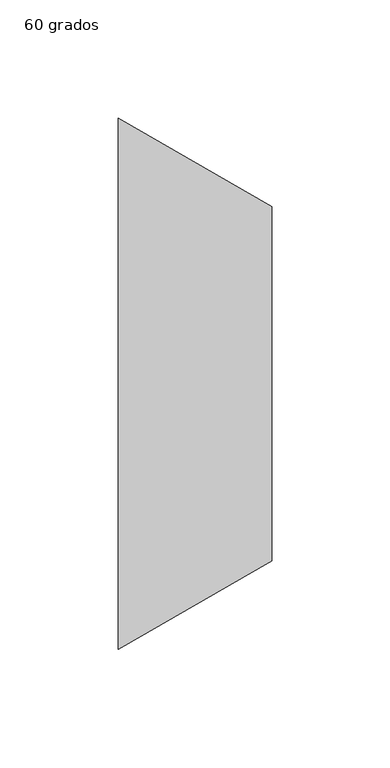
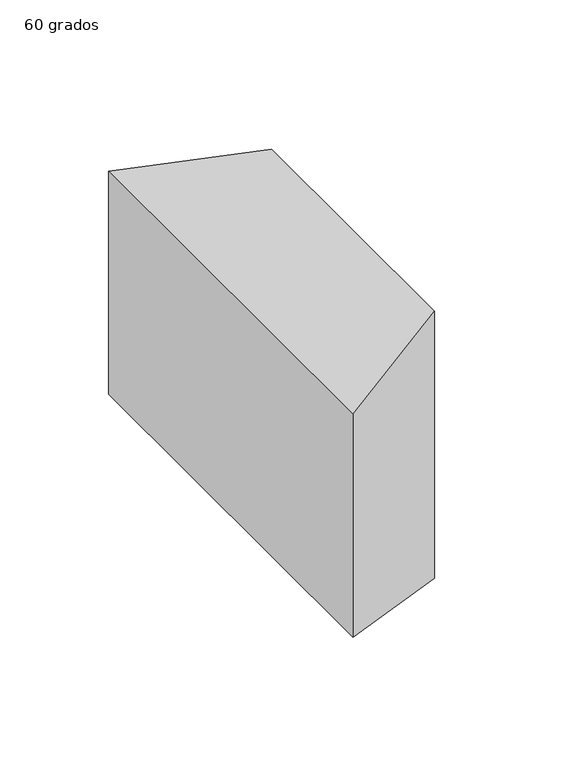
"""IFC4 building model written with IfcOpenShell, lengths in millimetres: duct fitting geometry, M_Transición rectangular - Ángulo : 60 grados."""

import ifcopenshell
import ifcopenshell.guid

model = None  # the IFC model being written
_history = None  # IfcOwnerHistory: only IFC2X3 demands one
_inside = {}  # id of a spatial element -> (the spatial element, [elements in it])
_under = {}  # id of a project, library or spatial element -> (it, [spatial elements below it])
_declared = {}  # id of a project -> (the project, [libraries it declares])
_typed = {}  # id of a type object -> (the type object, [elements of that type])
_made_of = {}  # id of a material, layer set ... -> (it, [elements and type objects made of it])


def new_model(schema):
    """Start an empty IFC model of exactly this schema.

    Asked for "IFC4X3", IfcOpenShell would pick the latest addendum, in which some entities
    have other attributes; the version numbers below select the first issue.
    IFC2X3 requires an IfcOwnerHistory on every rooted entity: one is made here for all.
    """
    global model, _history
    if schema == "IFC4X3":
        model = ifcopenshell.file(schema_version=(4, 3, 0, 0))
    else:
        model = ifcopenshell.file(schema=schema)
    _inside.clear()
    _under.clear()
    _declared.clear()
    _typed.clear()
    _made_of.clear()
    _history = None
    if model.schema == "IFC2X3":
        org = make("IfcOrganization", Name="unknown")
        user = make(
            "IfcPersonAndOrganization",
            ThePerson=make("IfcPerson", FamilyName="unknown"),
            TheOrganization=org,
        )
        app = make(
            "IfcApplication",
            ApplicationDeveloper=org,
            Version="unknown",
            ApplicationFullName="unknown",
            ApplicationIdentifier="unknown",
        )
        _history = make(
            "IfcOwnerHistory",
            OwningUser=user,
            OwningApplication=app,
            ChangeAction="ADDED",
            CreationDate=0,
        )
    return model


def make(cls, **values):
    """One entity of the class cls with the attributes given. An attribute that is None is left unset."""
    return model.create_entity(
        cls, **{name: value for name, value in values.items() if value is not None}
    )


def rooted(cls, **values):
    """An entity with a GlobalId (a new one), such as an element, a storey or a relation."""
    return make(cls, GlobalId=ifcopenshell.guid.new(), OwnerHistory=_history, **values)


def si_unit(unit_type, name, prefix=None):
    """IfcSIUnit, for example si_unit("LENGTHUNIT", "METRE", prefix="MILLI")."""
    return make("IfcSIUnit", UnitType=unit_type, Prefix=prefix, Name=name)


def assignment(units):
    """IfcUnitAssignment: the units of a project."""
    return None if units is None else make("IfcUnitAssignment", Units=units)


def point(xyz):
    """IfcCartesianPoint."""
    return None if xyz is None else make("IfcCartesianPoint", Coordinates=xyz)


def direction(xyz):
    """IfcDirection."""
    return None if xyz is None else make("IfcDirection", DirectionRatios=xyz)


def frame(location, z_axis=None, x_axis=None):
    """IfcAxis2Placement3D, a coordinate frame: its origin and axes. An axis left out is left unset."""
    return make(
        "IfcAxis2Placement3D",
        Location=point(location),
        Axis=direction(z_axis),
        RefDirection=direction(x_axis),
    )


def origin():
    """The frame at (0, 0, 0) with its axes left unset."""
    return frame((0.0, 0.0, 0.0))


def place(relative_to, where):
    """IfcLocalPlacement: puts the frame where relative to a parent placement (None: the world)."""
    return make(
        "IfcLocalPlacement", PlacementRelTo=relative_to, RelativePlacement=where
    )


def context(
    kind, dimensions, precision=None, world=None, true_north=None, identifier=None
):
    """IfcGeometricRepresentationContext, for example the 3D "Model" context."""
    return make(
        "IfcGeometricRepresentationContext",
        ContextIdentifier=identifier,
        ContextType=kind,
        CoordinateSpaceDimension=dimensions,
        Precision=precision,
        WorldCoordinateSystem=world,
        TrueNorth=true_north,
    )


def project(units=None, contexts=None):
    """IfcProject with its units and contexts."""
    return rooted(
        "IfcProject",
        Name="project",
        RepresentationContexts=contexts,
        UnitsInContext=assignment(units),
    )


def spatial(cls, under=None, at=None, **own):
    """A site, building, storey or space (cls), placed at a placement, below another one or the project."""
    s = rooted(cls, ObjectPlacement=at, **own)
    if under is not None:
        _under.setdefault(under.id(), (under, []))[1].append(s)
    return s


def faces_of(points, faces, orient=None, outer=None):
    """IfcFace entities. A face is a list of loops; a loop is a list of indices into points, from 0.

    orient and outer hold one flag for each loop. By default every Orientation is true, the
    first loop of a face is its IfcFaceOuterBound and the others are IfcFaceBound.
    """
    made = []
    for i, loops in enumerate(faces):
        bounds = []
        for j, loop in enumerate(loops):
            is_outer = j == 0 if outer is None else outer[i][j]
            bounds.append(
                make(
                    "IfcFaceOuterBound" if is_outer else "IfcFaceBound",
                    Bound=make("IfcPolyLoop", Polygon=[points[k] for k in loop]),
                    Orientation=True if orient is None else orient[i][j],
                )
            )
        made.append(make("IfcFace", Bounds=bounds))
    return made


def faceted_brep(points, faces, orient=None, outer=None, voids=None):
    """IfcFacetedBrep: a solid bounded by flat faces; with voids (closed shells), ...WithVoids."""
    shared = [point(p) for p in points]
    hull = make("IfcClosedShell", CfsFaces=faces_of(shared, faces, orient, outer))
    if voids is None:
        return make("IfcFacetedBrep", Outer=hull)
    return make(
        "IfcFacetedBrepWithVoids",
        Outer=hull,
        Voids=[
            make(cls, CfsFaces=faces_of(shared, fs, o, b)) for cls, fs, o, b in voids
        ],
    )


def shape(context_of_items, identifier, shape_type, items):
    """IfcShapeRepresentation: the items that make up one representation, for example the "Body"."""
    return make(
        "IfcShapeRepresentation",
        ContextOfItems=context_of_items,
        RepresentationIdentifier=identifier,
        RepresentationType=shape_type,
        Items=items,
    )


def source(mapping_origin, context_of_items, identifier, shape_type, items):
    """IfcRepresentationMap: a shape defined once, which mapped items show again and again."""
    return make(
        "IfcRepresentationMap",
        MappingOrigin=mapping_origin,
        MappedRepresentation=shape(context_of_items, identifier, shape_type, items),
    )


def transform(
    local_origin,
    x_axis=None,
    y_axis=None,
    z_axis=None,
    scale=None,
    scale2=None,
    scale3=None,
    uniform=True,
):
    """IfcCartesianTransformationOperator3D, or its non-uniform kind. x_axis, y_axis, z_axis: its Axis1, 2, 3."""
    if uniform:
        return make(
            "IfcCartesianTransformationOperator3D",
            Axis1=direction(x_axis),
            Axis2=direction(y_axis),
            LocalOrigin=point(local_origin),
            Scale=scale,
            Axis3=direction(z_axis),
        )
    return make(
        "IfcCartesianTransformationOperator3DnonUniform",
        Axis1=direction(x_axis),
        Axis2=direction(y_axis),
        LocalOrigin=point(local_origin),
        Scale=scale,
        Axis3=direction(z_axis),
        Scale2=scale2,
        Scale3=scale3,
    )


def mapped(mapping_source, mapping_target):
    """IfcMappedItem: shows the shape of a source again, moved by a transform."""
    return make(
        "IfcMappedItem", MappingSource=mapping_source, MappingTarget=mapping_target
    )


def made_of(thing, what):
    """Note that an element or type object is made of a material, layer set ...; save() writes the relation."""
    if what is not None:
        _made_of.setdefault(what.id(), (what, []))[1].append(thing)
    return thing


def element(
    cls,
    number,
    at=None,
    inside=None,
    cuts=None,
    type_object=None,
    material=None,
    context=None,
    identifier="Body",
    shape_type=None,
    held_by="IfcProductDefinitionShape",
    body=None,
    shapes=None,
    **own,
):
    """One element of the class cls, such as IfcWall. Its Tag is "e" and its number.

    at: its placement. inside: the storey or other place that contains it. cuts: it is an
    opening in that element (IfcRelVoidsElement). A single representation is given by context,
    identifier, shape_type and body (its items); several are given by shapes. held_by: the class
    of the entity that holds the representations. save() writes the other relations.
    """
    e = rooted(cls, Tag="e%d" % number, ObjectPlacement=at, **own)
    if body is not None:
        shapes = [shape(context, identifier, shape_type, body)]
    if shapes is not None:
        e.Representation = make(held_by, Representations=shapes)
    if inside is not None:
        _inside.setdefault(inside.id(), (inside, []))[1].append(e)
    if cuts is not None:
        rooted(
            "IfcRelVoidsElement", RelatingBuildingElement=cuts, RelatedOpeningElement=e
        )
    if type_object is not None:
        _typed.setdefault(type_object.id(), (type_object, []))[1].append(e)
    return made_of(e, material)


def aggregate(whole, parts):
    """IfcRelAggregates: a whole, such as a stair, and the parts it consists of."""
    return rooted("IfcRelAggregates", RelatingObject=whole, RelatedObjects=parts)


def save(model, path):
    """Write the relations noted so far, then the file.

    IfcRelAggregates (storeys below a building ...), IfcRelContainedInSpatialStructure (elements
    in a storey), IfcRelDefinesByType, IfcRelAssociatesMaterial and IfcRelDeclares: one each for
    every whole, place, type object, material and project.
    """
    for whole, parts in _under.values():
        aggregate(whole, parts)
    for where, things in _inside.values():
        rooted(
            "IfcRelContainedInSpatialStructure",
            RelatedElements=things,
            RelatingStructure=where,
        )
    for kind, things in _typed.values():
        rooted("IfcRelDefinesByType", RelatedObjects=things, RelatingType=kind)
    for what, things in _made_of.values():
        rooted("IfcRelAssociatesMaterial", RelatedObjects=things, RelatingMaterial=what)
    for by, libraries in _declared.values():
        rooted("IfcRelDeclares", RelatingContext=by, RelatedDefinitions=libraries)
    model.write(path)


def duct_fitting_60_grados_407c538d(model_context):
    return source(origin(), model_context, "Body", "Brep", [
        faceted_brep([(64.9519053, -75.0, 75.0), (64.9519053, -75.0, -75.0), (64.9519053, 75.0, -75.0), (64.9519053, 75.0, 75.0), (0.0, -112.5, 62.5), (0.0, 112.5, 62.5), (0.0, 112.5, -62.5), (0.0, -112.5, -62.5)], [[[0, 1, 2, 3]], [[4, 5, 6, 7]], [[4, 7, 1, 0]], [[7, 6, 2, 1]], [[6, 5, 3, 2]], [[5, 4, 0, 3]]]),
    ])


if __name__ == "__main__":
    model = new_model("IFC4")
    model_context = context("Model", 3, world=origin())
    ifc_project = project(units=[si_unit("LENGTHUNIT", "METRE", prefix="MILLI")], contexts=[model_context])
    site = spatial("IfcSite", under=ifc_project)
    building = spatial("IfcBuilding", under=site)
    placement = place(None, origin())
    duct_fitting_60_grados_shape = duct_fitting_60_grados_407c538d(model_context)
    element("IfcDuctFitting", 1, ObjectType="M_Transición rectangular - Ángulo : 60 grados", at=placement, inside=building, context=model_context, shape_type="MappedRepresentation", body=[
        mapped(duct_fitting_60_grados_shape, transform((0.0, 0.0, 0.0), x_axis=(1.0, 0.0, 0.0), y_axis=(0.0, 1.0, 0.0), z_axis=(0.0, 0.0, 1.0))),
    ])
    save(model, "model.ifc")
